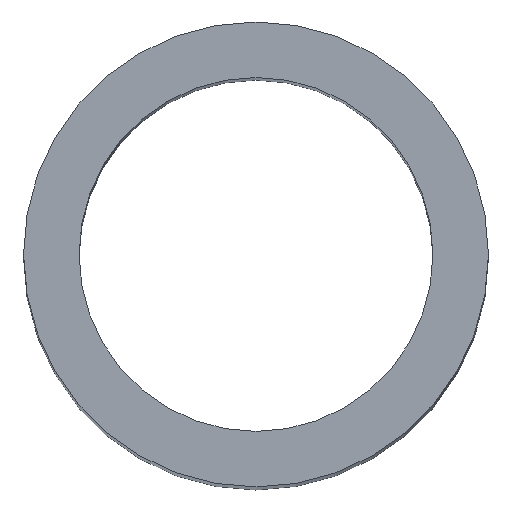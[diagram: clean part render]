
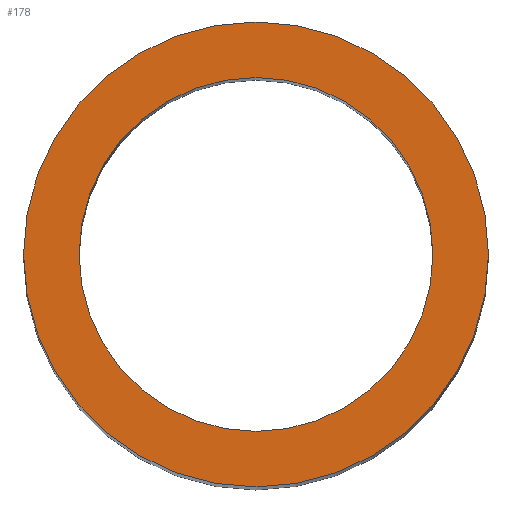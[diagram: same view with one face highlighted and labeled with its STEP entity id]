
A CAD part, top view. The second image highlights one B-rep face of the part: STEP entity #178.
In plain terms, the highlighted planar face has unit normal (0, 0, 1).
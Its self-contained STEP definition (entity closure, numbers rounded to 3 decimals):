
#19 = EDGE_CURVE ( 'NONE', #205, #204, #38, .T. ) ;
#28 = EDGE_CURVE ( 'NONE', #166, #138, #88, .T. ) ;
#29 = ORIENTED_EDGE ( 'NONE', *, *, #19, .T. ) ;
#37 = AXIS2_PLACEMENT_3D ( 'NONE', #45, #177, #176 ) ;
#38 = CIRCLE ( 'NONE', #37, 15.145 ) ;
#45 = CARTESIAN_POINT ( 'NONE',  ( 0., 0., 0. ) ) ;
#80 = DIRECTION ( 'NONE',  ( 1., 0., 0. ) ) ;
#81 = DIRECTION ( 'NONE',  ( 0., 0., 1. ) ) ;
#82 = CARTESIAN_POINT ( 'NONE',  ( 0., 0., 0. ) ) ;
#83 = AXIS2_PLACEMENT_3D ( 'NONE', #82, #81, #80 ) ;
#88 = CIRCLE ( 'NONE', #83, 19.9 ) ;
#138 = VERTEX_POINT ( 'NONE', #326 ) ;
#139 = EDGE_CURVE ( 'NONE', #138, #166, #324, .T. ) ;
#146 = EDGE_LOOP ( 'NONE', ( #29, #157 ) ) ;
#156 = EDGE_LOOP ( 'NONE', ( #180, #182 ) ) ;
#157 = ORIENTED_EDGE ( 'NONE', *, *, #203, .T. ) ;
#166 = VERTEX_POINT ( 'NONE', #338 ) ;
#176 = DIRECTION ( 'NONE',  ( 0., 1., 0. ) ) ;
#177 = DIRECTION ( 'NONE',  ( 0., 0., -1. ) ) ;
#178 = ADVANCED_FACE ( 'NONE', ( #333, #332 ), #331, .F. ) ;
#180 = ORIENTED_EDGE ( 'NONE', *, *, #139, .T. ) ;
#182 = ORIENTED_EDGE ( 'NONE', *, *, #28, .T. ) ;
#203 = EDGE_CURVE ( 'NONE', #204, #205, #388, .T. ) ;
#204 = VERTEX_POINT ( 'NONE', #383 ) ;
#205 = VERTEX_POINT ( 'NONE', #382 ) ;
#307 = DIRECTION ( 'NONE',  ( -1., 0., 0. ) ) ;
#320 = DIRECTION ( 'NONE',  ( 1., 0., 0. ) ) ;
#321 = DIRECTION ( 'NONE',  ( 0., 0., 1. ) ) ;
#322 = CARTESIAN_POINT ( 'NONE',  ( 0., 0., 0. ) ) ;
#323 = AXIS2_PLACEMENT_3D ( 'NONE', #322, #321, #320 ) ;
#324 = CIRCLE ( 'NONE', #323, 19.9 ) ;
#326 = CARTESIAN_POINT ( 'NONE',  ( 19.9, 0., 0. ) ) ;
#327 = DIRECTION ( 'NONE',  ( 0., 0., -1. ) ) ;
#328 = AXIS2_PLACEMENT_3D ( 'NONE', #330, #327, #307 ) ;
#330 = CARTESIAN_POINT ( 'NONE',  ( 0., 19.9, 0. ) ) ;
#331 = PLANE ( 'NONE',  #328 ) ;
#332 = FACE_OUTER_BOUND ( 'NONE', #156, .T. ) ;
#333 = FACE_BOUND ( 'NONE', #146, .T. ) ;
#338 = CARTESIAN_POINT ( 'NONE',  ( -19.9, 0., 0. ) ) ;
#382 = CARTESIAN_POINT ( 'NONE',  ( 0., 15.145, 0. ) ) ;
#383 = CARTESIAN_POINT ( 'NONE',  ( 0., -15.145, 0. ) ) ;
#384 = DIRECTION ( 'NONE',  ( 0., 1., 0. ) ) ;
#385 = DIRECTION ( 'NONE',  ( 0., 0., -1. ) ) ;
#386 = CARTESIAN_POINT ( 'NONE',  ( 0., 0., 0. ) ) ;
#387 = AXIS2_PLACEMENT_3D ( 'NONE', #386, #385, #384 ) ;
#388 = CIRCLE ( 'NONE', #387, 15.145 ) ;
